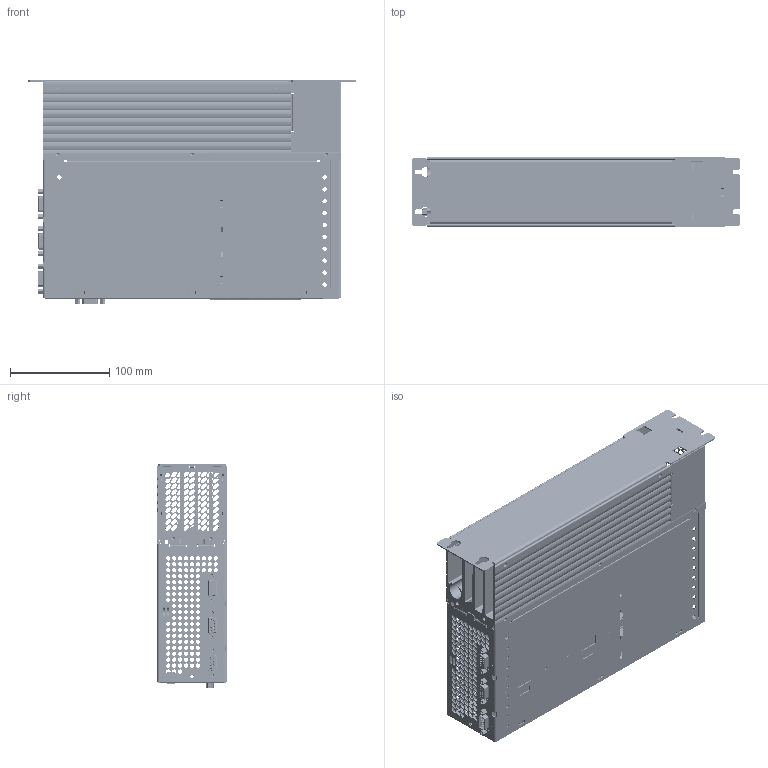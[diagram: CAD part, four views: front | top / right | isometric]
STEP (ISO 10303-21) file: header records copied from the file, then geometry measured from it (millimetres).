
FILE_DESCRIPTION (( 'STEP AP214' ), '1' );
FILE_NAME ('CDE34.008.W_34.010.W.STEP', '2010-10-26T10:12:04', ( 'Bereich' ), ( 'LTi DRiVES GmbH' ), 'SwSTEP 2.0', 'SolidWorks 2008', '' );
FILE_SCHEMA (( 'AUTOMOTIVE_DESIGN' ));
Length unit declared in the file: millimetre
Products named in the file (37): D-SUB 9POLIG 106257_Standard; CODIERSCHALTER1_Standard; LED_3FACH_108456_Standard; MSTBA_2.5-2-G1_Standard; STEUERPRINT CDE1_Standard; 1020.508.0_Standard; Self-clinching Nut_PMM_PEM S-M4-1 ZI--N; MSTBA_2.5-2-G(1)1_Standard; MCDN_1.5-12-G1-3.5-P26THR1_Standard; MCDN_1.5-12-G1-3.5-P26THR(1)1_Standard; 1020.503.0_Standard; 1020.503.0; gmstba_2.5-12-g-7.62_Standard; _U12-1_Standard; 0931.503.0; 0892.504.0_Standard; SO-M4-8_Standard; 0931.503.0-1_Standard; 0892.501.0_Standard; DISTANZBOLZEN 107749_Standard; D_SUB_9POLIG_108581_Standard; TEIL6_Standard; DRUCKTASTER-105903_Standard; polig-Stift_Standard; D_SUB_15POLIG_Standard; TEST_Standard; CDE34.008.W_34.010.W; Setzmutter M4_Standard; _U12_Standard; 0892.500.0; 0892.504.0; 0892.506.0_Standard; 0892.500.0_Standard
Assembly tree (44 placements, depth 4):
  0892.504.0_Standard
  SO-M4-8_Standard
  CDE34.008.W_34.010.W
    DISTANZBOLZEN 107749_Standard  x8
    STEUERPRINT CDE1_Standard
      MSTBA_2.5-2-G(1)1_Standard  x2
        MSTBA_2.5-2-G1_Standard
      CODIERSCHALTER1_Standard
      D-SUB 9POLIG 106257_Standard
        D-SUB 9POLIG 106257_Standard
      D_SUB_9POLIG_108581_Standard
        TEST_Standard
      D_SUB_15POLIG_Standard
      DRUCKTASTER-105903_Standard  x2
        DRUCKTASTER-105903_Standard
      LED_3FACH_108456_Standard
        LED_3FACH_108456_Standard
      polig-Stift_Standard
      MCDN_1.5-12-G1-3.5-P26THR(1)1_Standard
        MCDN_1.5-12-G1-3.5-P26THR1_Standard
      TEIL6_Standard
    gmstba_2.5-12-g-7.62_Standard
      gmstba_2.5-12-g-7.62_Standard
    0931.503.0
      0931.503.0-1_Standard
    1020.503.0
      Self-clinching Nut_PMM_PEM S-M4-1 ZI--N  x4
      1020.508.0_Standard
      1020.503.0_Standard
    0892.506.0_Standard
    0892.500.0
      _U12_Standard
    0892.504.0
      _U12-1_Standard
    0892.501.0_Standard
  Setzmutter M4_Standard
  0892.500.0_Standard
Bounding box: 330 x 70 x 224.6 mm (x, y, z)
Volume: 754267.8 mm3; surface area: 660643.3 mm2
Topology: 31 solids, 67 shells, 6579 faces, 17245 edges, 10982 vertices
Faces by surface type: plane 4062, cylinder 1258, bspline 924, cone 284, torus 33, sphere 18
Entity records: 260402 total; most frequent: CARTESIAN_POINT 76502, ORIENTED_EDGE 30851, DIRECTION 25914, EDGE_CURVE 15478, VECTOR 10366, LINE 10366, VERTEX_POINT 9914, AXIS2_PLACEMENT_3D 7774
